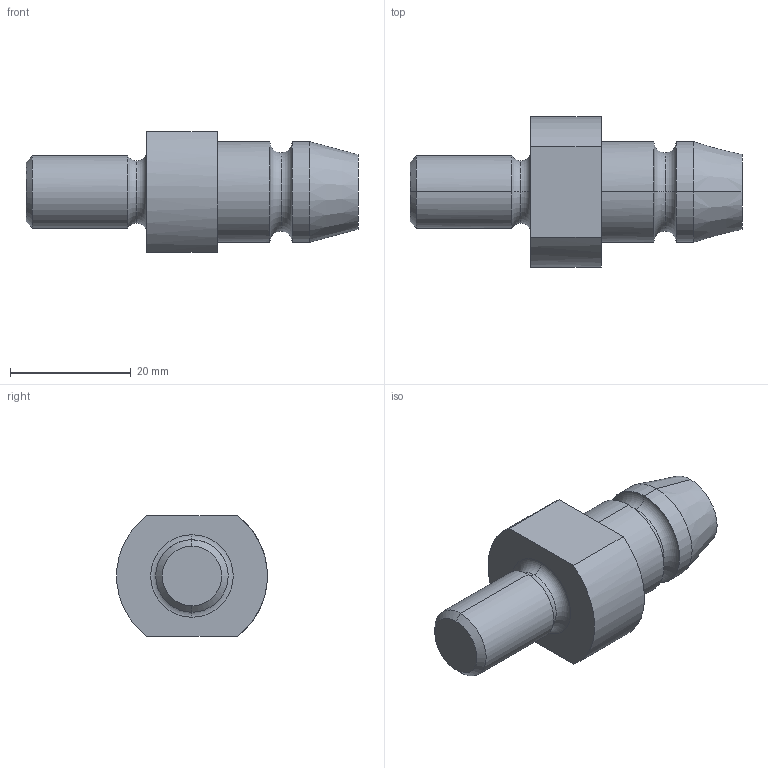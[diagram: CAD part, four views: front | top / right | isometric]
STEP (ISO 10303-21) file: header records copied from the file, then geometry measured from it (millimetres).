
FILE_DESCRIPTION(('CATIA V5 STEP Exchange'),'2;1');
FILE_NAME('C:\Users\Utente\Desktop\IO LAVORO\3D X SITO CF\X SITO\PLASTICA\AGS\AGS3401M12.stp','2021-02-21T19:19:16+00:00',('none'),('none'),'CATIA Version 5 Release 20 GA (IN-10)','CATIA V5 STEP AP203','none');
FILE_SCHEMA(('CONFIG_CONTROL_DESIGN'));
Length unit declared in the file: millimetre
Products named in the file (1): AGS3401M12
Bounding box: 55 x 24.93 x 20 mm (x, y, z)
Volume: 11743.4 mm3; surface area: 3653.5 mm2
Topology: 1 solids, 1 shells, 26 faces, 70 edges, 48 vertices
Faces by surface type: cylinder 8, torus 8, plane 6, cone 4
Entity records: 920 total; most frequent: CARTESIAN_POINT 235, ORIENTED_EDGE 140, DIRECTION 113, AXIS2_PLACEMENT_3D 70, EDGE_CURVE 70, VERTEX_POINT 48, CIRCLE 43, EDGE_LOOP 28
